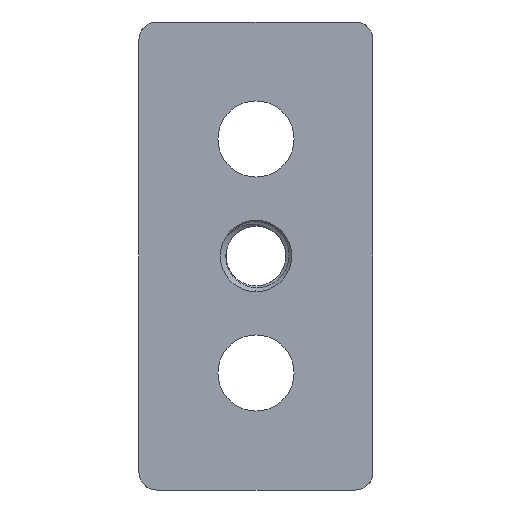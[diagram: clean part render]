
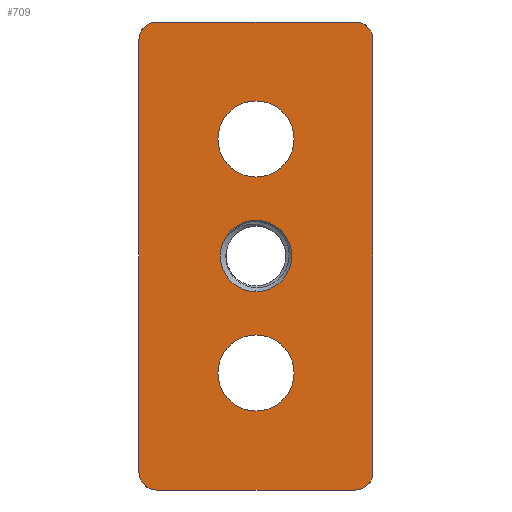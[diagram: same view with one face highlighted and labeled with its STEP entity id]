
A CAD part, front view. The second image highlights one B-rep face of the part: STEP entity #709.
In plain terms, the highlighted planar face has unit normal (0, -1, 0).
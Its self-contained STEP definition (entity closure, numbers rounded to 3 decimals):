
#5 = CARTESIAN_POINT ( 'NONE',  ( 20., 0., -40. ) ) ;
#46 = VERTEX_POINT ( 'NONE', #3152 ) ;
#54 = VERTEX_POINT ( 'NONE', #2628 ) ;
#77 = VECTOR ( 'NONE', #595, 1000. ) ;
#104 = CARTESIAN_POINT ( 'NONE',  ( 0., 0., -3. ) ) ;
#190 = AXIS2_PLACEMENT_3D ( 'NONE', #2072, #653, #754 ) ;
#194 = AXIS2_PLACEMENT_3D ( 'NONE', #1575, #453, #3560 ) ;
#231 = DIRECTION ( 'NONE',  ( 0., 0., 1. ) ) ;
#298 = EDGE_LOOP ( 'NONE', ( #1785, #2885 ) ) ;
#305 = CARTESIAN_POINT ( 'NONE',  ( 40., 0., -3. ) ) ;
#318 = CIRCLE ( 'NONE', #1371, 6.5 ) ;
#356 = CARTESIAN_POINT ( 'NONE',  ( 3., 0., -80. ) ) ;
#363 = DIRECTION ( 'NONE',  ( 0., 0., 1. ) ) ;
#373 = VERTEX_POINT ( 'NONE', #538 ) ;
#453 = DIRECTION ( 'NONE',  ( 0., 1., 0. ) ) ;
#488 = VERTEX_POINT ( 'NONE', #2552 ) ;
#522 = ORIENTED_EDGE ( 'NONE', *, *, #2447, .T. ) ;
#538 = CARTESIAN_POINT ( 'NONE',  ( 40., 0., -77. ) ) ;
#551 = VECTOR ( 'NONE', #1565, 1000. ) ;
#595 = DIRECTION ( 'NONE',  ( -1., 0., 0. ) ) ;
#640 = CARTESIAN_POINT ( 'NONE',  ( 37., 0., -77. ) ) ;
#653 = DIRECTION ( 'NONE',  ( 0., -1., 0. ) ) ;
#683 = ORIENTED_EDGE ( 'NONE', *, *, #2126, .F. ) ;
#700 = EDGE_CURVE ( 'NONE', #488, #776, #1427, .T. ) ;
#709 = ADVANCED_FACE ( 'NONE', ( #1355, #2481, #1084, #2210 ), #3346, .F. ) ;
#730 = DIRECTION ( 'NONE',  ( 0., 1., 0. ) ) ;
#754 = DIRECTION ( 'NONE',  ( 0., 0., 1. ) ) ;
#776 = VERTEX_POINT ( 'NONE', #104 ) ;
#822 = CARTESIAN_POINT ( 'NONE',  ( 40., 0., 0. ) ) ;
#827 = CARTESIAN_POINT ( 'NONE',  ( 0., 0., -77. ) ) ;
#848 = CARTESIAN_POINT ( 'NONE',  ( 40., 0., -80. ) ) ;
#884 = CARTESIAN_POINT ( 'NONE',  ( 20., 0., -20. ) ) ;
#920 = LINE ( 'NONE', #848, #77 ) ;
#940 = EDGE_LOOP ( 'NONE', ( #2200, #522 ) ) ;
#948 = EDGE_CURVE ( 'NONE', #2688, #2457, #3504, .T. ) ;
#997 = EDGE_CURVE ( 'NONE', #2044, #373, #1490, .T. ) ;
#1007 = VERTEX_POINT ( 'NONE', #356 ) ;
#1041 = VERTEX_POINT ( 'NONE', #2930 ) ;
#1083 = CIRCLE ( 'NONE', #194, 6.5 ) ;
#1084 = FACE_BOUND ( 'NONE', #298, .T. ) ;
#1095 = EDGE_CURVE ( 'NONE', #2688, #373, #2054, .T. ) ;
#1124 = ORIENTED_EDGE ( 'NONE', *, *, #997, .T. ) ;
#1142 = AXIS2_PLACEMENT_3D ( 'NONE', #5, #1479, #2280 ) ;
#1163 = DIRECTION ( 'NONE',  ( 0., 0., 1. ) ) ;
#1195 = DIRECTION ( 'NONE',  ( 0., 1., 0. ) ) ;
#1200 = CIRCLE ( 'NONE', #2489, 6.5 ) ;
#1211 = ORIENTED_EDGE ( 'NONE', *, *, #2177, .F. ) ;
#1216 = DIRECTION ( 'NONE',  ( 0., 0., 1. ) ) ;
#1355 = FACE_BOUND ( 'NONE', #940, .T. ) ;
#1367 = VECTOR ( 'NONE', #3483, 1000. ) ;
#1371 = AXIS2_PLACEMENT_3D ( 'NONE', #3178, #2248, #1417 ) ;
#1400 = LINE ( 'NONE', #2831, #2028 ) ;
#1417 = DIRECTION ( 'NONE',  ( 0., 0., 1. ) ) ;
#1427 = CIRCLE ( 'NONE', #2020, 3. ) ;
#1434 = CIRCLE ( 'NONE', #1910, 6.5 ) ;
#1479 = DIRECTION ( 'NONE',  ( 0., 1., 0. ) ) ;
#1490 = CIRCLE ( 'NONE', #1847, 3. ) ;
#1502 = CARTESIAN_POINT ( 'NONE',  ( 20., 0., -20. ) ) ;
#1521 = EDGE_CURVE ( 'NONE', #3378, #54, #2731, .T. ) ;
#1565 = DIRECTION ( 'NONE',  ( 0., 0., 1. ) ) ;
#1575 = CARTESIAN_POINT ( 'NONE',  ( 20., 0., -60. ) ) ;
#1636 = CARTESIAN_POINT ( 'NONE',  ( 3., 0., -3. ) ) ;
#1698 = DIRECTION ( 'NONE',  ( 1., 0., 0. ) ) ;
#1758 = ORIENTED_EDGE ( 'NONE', *, *, #948, .T. ) ;
#1763 = DIRECTION ( 'NONE',  ( 0., 0., 1. ) ) ;
#1780 = ORIENTED_EDGE ( 'NONE', *, *, #1867, .F. ) ;
#1785 = ORIENTED_EDGE ( 'NONE', *, *, #2961, .T. ) ;
#1847 = AXIS2_PLACEMENT_3D ( 'NONE', #640, #2332, #1763 ) ;
#1867 = EDGE_CURVE ( 'NONE', #3372, #776, #2698, .T. ) ;
#1868 = CARTESIAN_POINT ( 'NONE',  ( 0., 0., -80. ) ) ;
#1894 = VERTEX_POINT ( 'NONE', #3333 ) ;
#1905 = AXIS2_PLACEMENT_3D ( 'NONE', #822, #1938, #1216 ) ;
#1910 = AXIS2_PLACEMENT_3D ( 'NONE', #1502, #3471, #2129 ) ;
#1938 = DIRECTION ( 'NONE',  ( 0., 1., 0. ) ) ;
#2020 = AXIS2_PLACEMENT_3D ( 'NONE', #1636, #2766, #231 ) ;
#2028 = VECTOR ( 'NONE', #1698, 1000. ) ;
#2037 = EDGE_CURVE ( 'NONE', #46, #1041, #318, .T. ) ;
#2044 = VERTEX_POINT ( 'NONE', #2526 ) ;
#2047 = CARTESIAN_POINT ( 'NONE',  ( 3., 0., -77. ) ) ;
#2054 = LINE ( 'NONE', #2894, #1367 ) ;
#2058 = ORIENTED_EDGE ( 'NONE', *, *, #1095, .F. ) ;
#2072 = CARTESIAN_POINT ( 'NONE',  ( 37., 0., -3. ) ) ;
#2126 = EDGE_CURVE ( 'NONE', #2044, #1007, #920, .T. ) ;
#2129 = DIRECTION ( 'NONE',  ( 0., 0., 1. ) ) ;
#2141 = VERTEX_POINT ( 'NONE', #3161 ) ;
#2144 = EDGE_CURVE ( 'NONE', #3372, #1007, #3092, .T. ) ;
#2177 = EDGE_CURVE ( 'NONE', #488, #2457, #1400, .T. ) ;
#2200 = ORIENTED_EDGE ( 'NONE', *, *, #1521, .T. ) ;
#2210 = FACE_OUTER_BOUND ( 'NONE', #3501, .T. ) ;
#2214 = CARTESIAN_POINT ( 'NONE',  ( 20., 0., -46.1 ) ) ;
#2248 = DIRECTION ( 'NONE',  ( 0., 1., 0. ) ) ;
#2264 = CIRCLE ( 'NONE', #2617, 6.1 ) ;
#2280 = DIRECTION ( 'NONE',  ( 0., 0., 1. ) ) ;
#2290 = EDGE_CURVE ( 'NONE', #2141, #1894, #1200, .T. ) ;
#2332 = DIRECTION ( 'NONE',  ( 0., -1., 0. ) ) ;
#2377 = AXIS2_PLACEMENT_3D ( 'NONE', #2047, #2583, #1163 ) ;
#2390 = CARTESIAN_POINT ( 'NONE',  ( 37., 0., 0. ) ) ;
#2447 = EDGE_CURVE ( 'NONE', #54, #3378, #2264, .T. ) ;
#2457 = VERTEX_POINT ( 'NONE', #2390 ) ;
#2481 = FACE_BOUND ( 'NONE', #2720, .T. ) ;
#2489 = AXIS2_PLACEMENT_3D ( 'NONE', #884, #1195, #3458 ) ;
#2526 = CARTESIAN_POINT ( 'NONE',  ( 37., 0., -80. ) ) ;
#2532 = ORIENTED_EDGE ( 'NONE', *, *, #2144, .T. ) ;
#2552 = CARTESIAN_POINT ( 'NONE',  ( 3., 0., 0. ) ) ;
#2583 = DIRECTION ( 'NONE',  ( 0., -1., 0. ) ) ;
#2617 = AXIS2_PLACEMENT_3D ( 'NONE', #2693, #730, #363 ) ;
#2628 = CARTESIAN_POINT ( 'NONE',  ( 20., 0., -33.9 ) ) ;
#2642 = EDGE_CURVE ( 'NONE', #1041, #46, #1083, .T. ) ;
#2688 = VERTEX_POINT ( 'NONE', #305 ) ;
#2693 = CARTESIAN_POINT ( 'NONE',  ( 20., 0., -40. ) ) ;
#2698 = LINE ( 'NONE', #1868, #551 ) ;
#2720 = EDGE_LOOP ( 'NONE', ( #2838, #3265 ) ) ;
#2731 = CIRCLE ( 'NONE', #1142, 6.1 ) ;
#2766 = DIRECTION ( 'NONE',  ( 0., -1., 0. ) ) ;
#2831 = CARTESIAN_POINT ( 'NONE',  ( 0., 0., 0. ) ) ;
#2838 = ORIENTED_EDGE ( 'NONE', *, *, #2037, .T. ) ;
#2885 = ORIENTED_EDGE ( 'NONE', *, *, #2290, .T. ) ;
#2894 = CARTESIAN_POINT ( 'NONE',  ( 40., 0., 0. ) ) ;
#2930 = CARTESIAN_POINT ( 'NONE',  ( 20., 0., -66.5 ) ) ;
#2961 = EDGE_CURVE ( 'NONE', #1894, #2141, #1434, .T. ) ;
#3092 = CIRCLE ( 'NONE', #2377, 3. ) ;
#3152 = CARTESIAN_POINT ( 'NONE',  ( 20., 0., -53.5 ) ) ;
#3161 = CARTESIAN_POINT ( 'NONE',  ( 20., 0., -26.5 ) ) ;
#3178 = CARTESIAN_POINT ( 'NONE',  ( 20., 0., -60. ) ) ;
#3265 = ORIENTED_EDGE ( 'NONE', *, *, #2642, .T. ) ;
#3333 = CARTESIAN_POINT ( 'NONE',  ( 20., 0., -13.5 ) ) ;
#3346 = PLANE ( 'NONE',  #1905 ) ;
#3359 = ORIENTED_EDGE ( 'NONE', *, *, #700, .T. ) ;
#3372 = VERTEX_POINT ( 'NONE', #827 ) ;
#3378 = VERTEX_POINT ( 'NONE', #2214 ) ;
#3458 = DIRECTION ( 'NONE',  ( 0., 0., 1. ) ) ;
#3471 = DIRECTION ( 'NONE',  ( 0., 1., 0. ) ) ;
#3483 = DIRECTION ( 'NONE',  ( 0., 0., -1. ) ) ;
#3501 = EDGE_LOOP ( 'NONE', ( #1211, #3359, #1780, #2532, #683, #1124, #2058, #1758 ) ) ;
#3504 = CIRCLE ( 'NONE', #190, 3. ) ;
#3560 = DIRECTION ( 'NONE',  ( 0., 0., 1. ) ) ;
